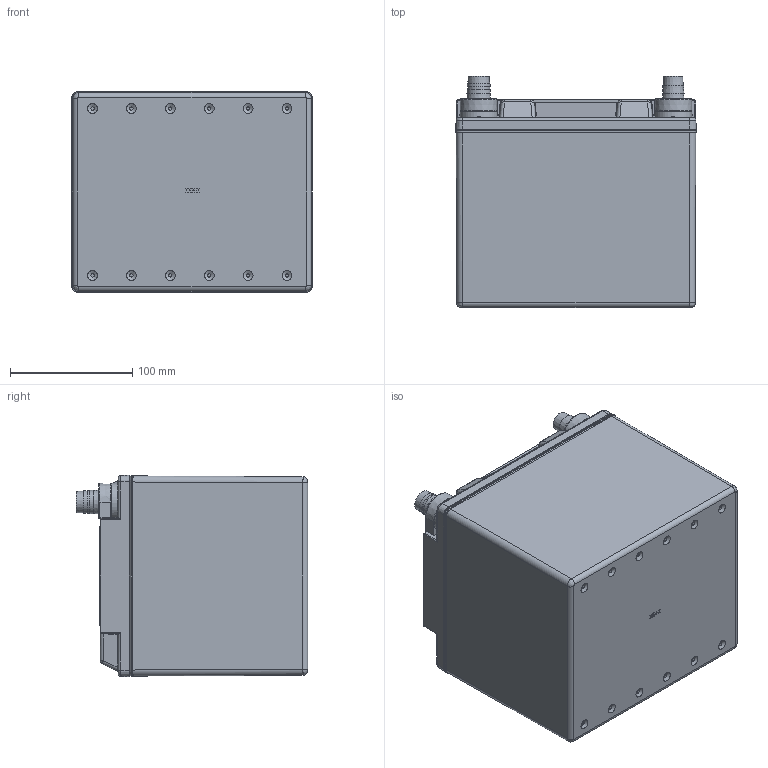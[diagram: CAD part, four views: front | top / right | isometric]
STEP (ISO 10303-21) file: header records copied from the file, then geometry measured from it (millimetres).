
FILE_DESCRIPTION (( 'STEP AP203' ), '1' );
FILE_NAME ('ODS-AGM42A.STEP', '2024-03-25T15:53:04', ( '' ), ( '' ), 'SwSTEP 2.0', 'SolidWorks 2022', '' );
FILE_SCHEMA (( 'CONFIG_CONTROL_DESIGN' ));
Length unit declared in the file: inch
Products named in the file (1): ODS-AGM42A
Bounding box: 196.75 x 189.41 x 164.97 mm (x, y, z)
Volume: 998157.4 mm3; surface area: 743731.2 mm2
Topology: 17 solids, 17 shells, 3956 faces, 9783 edges, 5618 vertices
Faces by surface type: plane 1284, cylinder 1233, bspline 755, cone 334, torus 243, sphere 107
Full cylindrical faces by diameter (mm): 1.575 x5, 3.81 x1, 5.994 x2, 6.35 x7, 6.477 x2, 7.62 x1, 9.398 x5, 10 x2, 10.084 x2, 10.668 x2, 12.7 x8, 13.208 x4, 17.78 x2, 19.05 x4, 22.123 x1, 25.273 x2
Entity records: 154004 total; most frequent: CARTESIAN_POINT 72229, ORIENTED_EDGE 18260, DIRECTION 15087, EDGE_CURVE 9130, VERTEX_POINT 5546, AXIS2_PLACEMENT_3D 5371, VECTOR 4345, LINE 4345
